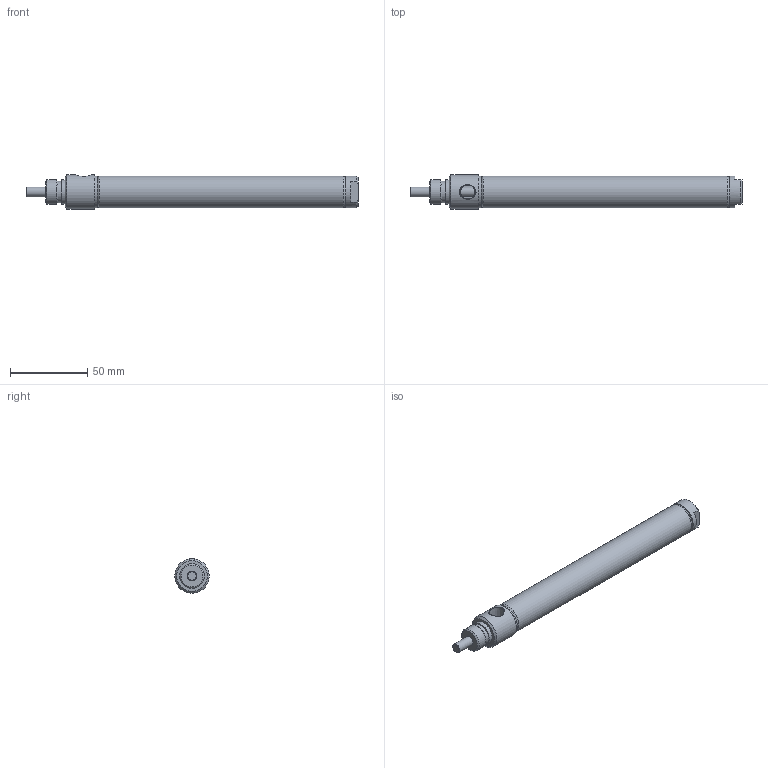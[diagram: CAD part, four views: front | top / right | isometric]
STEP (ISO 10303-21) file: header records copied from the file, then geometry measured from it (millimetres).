
FILE_DESCRIPTION( ( 'STEP AP214' ), '1' );
FILE_NAME( 'p:/temp/worker_473/temp/exporttempdir_4476_20_xndrP/format_0/0750D01-05A.stp', '2020-05-07T14:28:28', ( 'License CC BY-ND 4.0' ), ( 'CADENAS' ), ' ', 'PARTsolutions', ' ' );
FILE_SCHEMA( ( 'AUTOMOTIVE_DESIGN { 1 0 10303 214 1 1 1 1 }' ) );
Length unit declared in the file: inch
Products named in the file (3): 0750D01-05A; _0750D01-05A-000b; _0750D01-05A-000r
Assembly tree (2 placements, depth 2):
  0750D01-05A
    _0750D01-05A-000b
    _0750D01-05A-000r
Bounding box: 215.11 x 22.23 x 22.23 mm (x, y, z)
Volume: 32405.6 mm3; surface area: 30233.3 mm2
Topology: 2 solids, 2 shells, 44 faces, 85 edges, 54 vertices
Faces by surface type: plane 19, cone 13, cylinder 12
Full cylindrical faces by diameter (mm): 6.35 x3, 14.196 x1, 15.85 x1, 15.875 x1, 19.05 x2, 20.472 x1, 20.65 x2, 22.225 x1
Entity records: 1546 total; most frequent: CARTESIAN_POINT 317, DIRECTION 186, ORIENTED_EDGE 122, AXIS2_PLACEMENT_3D 88, EDGE_LOOP 78, EDGE_CURVE 61, FACE_OUTER_BOUND 56, VERTEX_POINT 51
